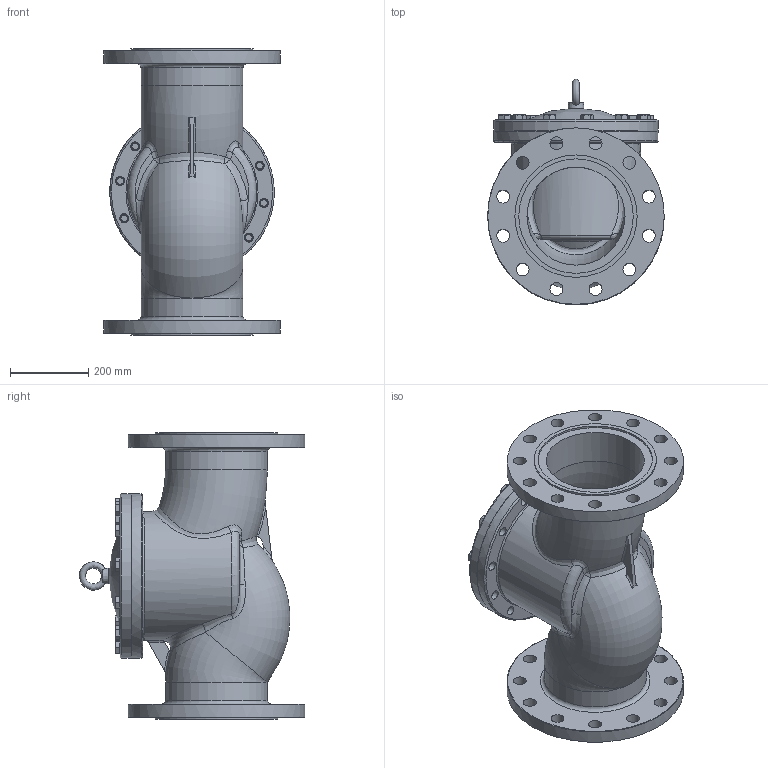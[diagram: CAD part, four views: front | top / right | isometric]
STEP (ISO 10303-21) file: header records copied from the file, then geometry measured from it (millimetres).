
FILE_DESCRIPTION(('STEP AP214'), '1');
FILE_NAME('VCR3434-F 孰囡囗 钺疣蝽 DN.ru 捏250 畜40', '', ('UNSPECIFIED'), ('UNSPECIFIED'), 'C3D Converter', 'C3D Toolkit', '');
FILE_SCHEMA(('AUTOMOTIVE_DESIGN { 1 0 10303 214 3 1 1}'));
Length unit declared in the file: millimetre
Products named in the file (1): VCR3434-F
Bounding box: 450 x 574.97 x 730 mm (x, y, z)
Volume: 38795718.6 mm3; surface area: 2396901.2 mm2
Topology: 2 solids, 2 shells, 520 faces, 1215 edges, 748 vertices
Faces by surface type: plane 245, cylinder 98, cone 90, bspline 32, extrusion 29, torus 25, sphere 1
Full cylindrical faces by diameter (mm): 15 x1, 20 x13, 23.184 x24, 30 x12, 33 x24, 250 x2, 260 x2, 292 x2, 312 x2, 329.071 x1, 419.375 x2, 450 x2
Entity records: 70917 total; most frequent: CARTESIAN_POINT 59100, ORIENTED_EDGE 2190, DIRECTION 2161, EDGE_CURVE 1095, AXIS2_PLACEMENT_3D 901, EDGE_LOOP 763, VERTEX_POINT 746, FACE_BOUND 589
